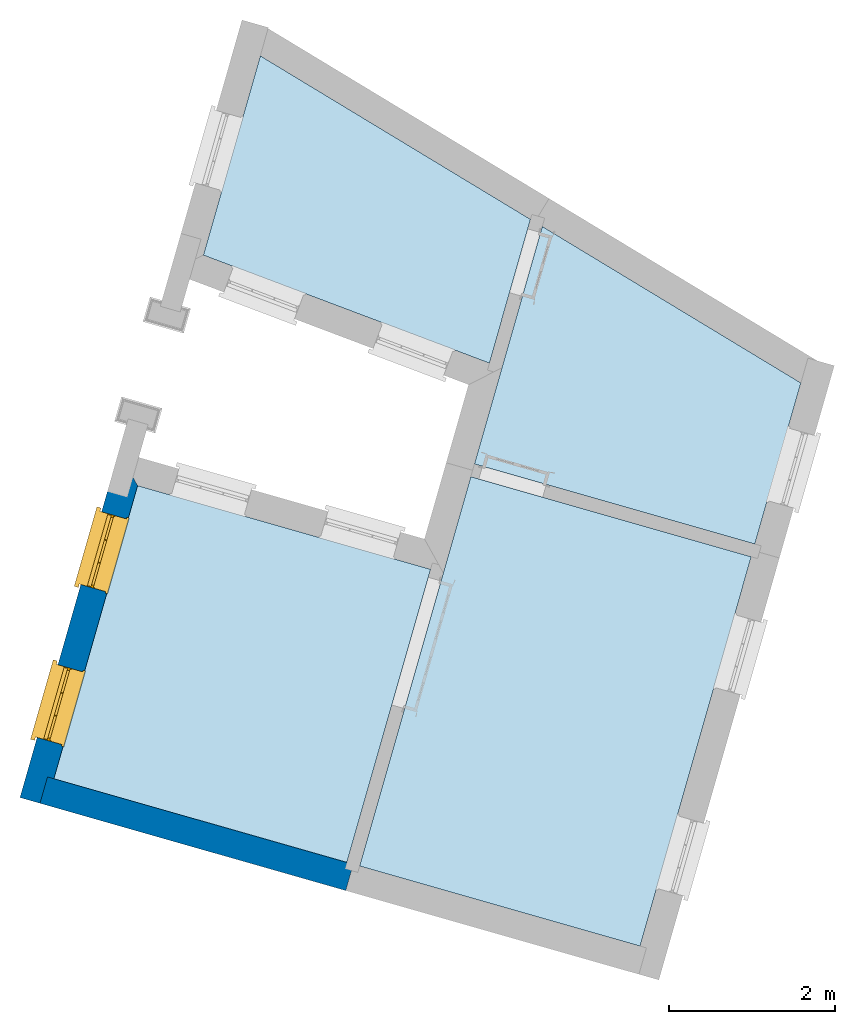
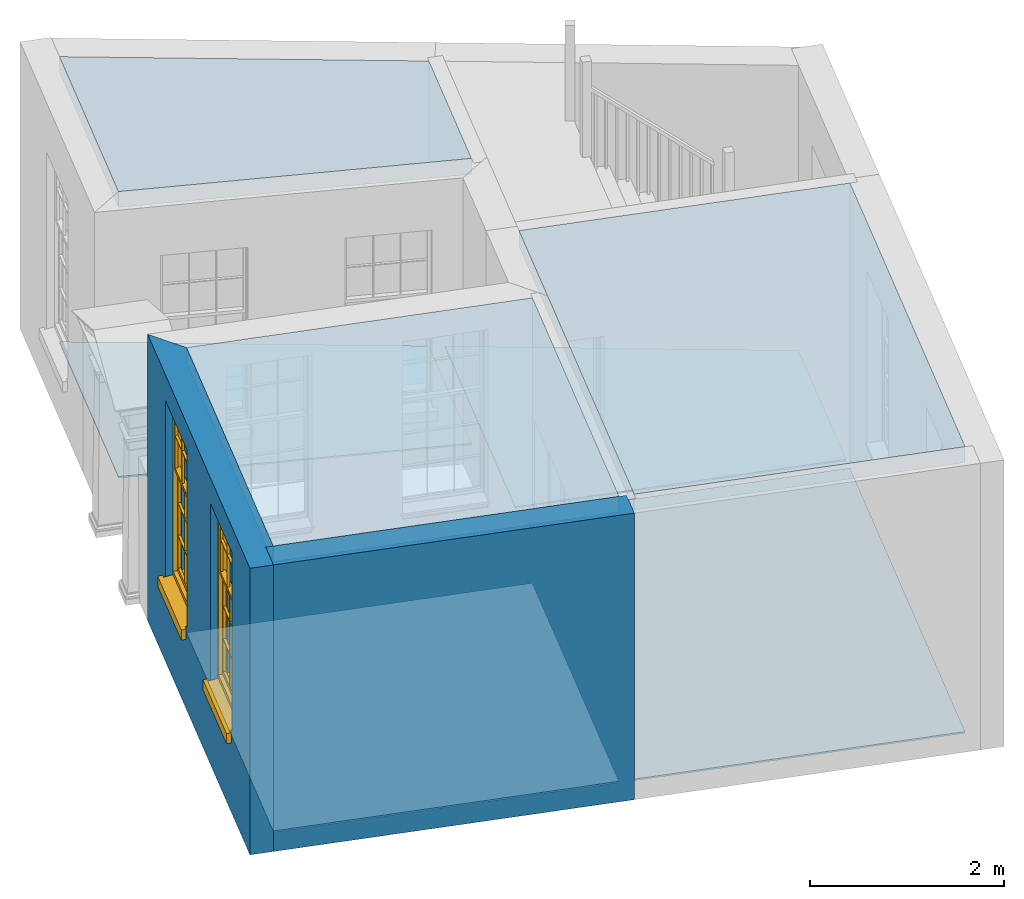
# One storey, part 1 of 6: 7 slabs, 2 walls, 2 windows, 2 openings.
"""IFC4 building model written with IfcOpenShell, lengths in metres."""

from ifc_helpers import new_model, si_unit, frame, origin, origin_with_axes, place, context, subcontext, project, spatial, polyline, outline, extrude, faceted_brep, source, transform, mapped, material, layer, layer_set, layer_usage, type_object, type_shapes, element, fill, save


model = new_model("IFC4")

# Units and contexts
model_context = context("Model", 3, world=origin_with_axes())
body_context = subcontext(model_context, "Body", "Model", "MODEL_VIEW")
ifc_project = project(units=[si_unit("PLANEANGLEUNIT", "RADIAN"), si_unit("MASSUNIT", "GRAM", prefix="KILO"), si_unit("FORCEUNIT", "NEWTON", prefix="KILO"), si_unit("LENGTHUNIT", "METRE"), si_unit("AREAUNIT", "SQUARE_METRE"), si_unit("VOLUMEUNIT", "CUBIC_METRE")], contexts=[model_context, model_context])

# Sites, building, storey
site_1_placement = place(None, origin_with_axes())
site_1 = spatial("IfcSite", under=ifc_project, at=site_1_placement, Name="Tamar")
site_2_placement = place(site_1_placement, origin_with_axes())
site_2 = spatial("IfcSite", under=site_1, at=site_2_placement, Name="Site plot-19", CompositionType="ELEMENT")
building_placement = place(None, origin_with_axes())
building = spatial("IfcBuilding", under=site_2, at=building_placement, Name="Building plot-19", CompositionType="ELEMENT")
storey_placement = place(None, frame((0.0, 0.0, 26.8), z_axis=(0.0, 0.0, 1.0), x_axis=(1.0, 0.0, 0.0)))
storey = spatial("IfcBuildingStorey", under=building, at=storey_placement, Name="plot-19 0", CompositionType="ELEMENT", Elevation=26.8)

# Slabs
slab_1_placement = place(storey_placement, frame((281.302675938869, 302.116570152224, 0.0)))
element("IfcSlab", 1, at=slab_1_placement, inside=storey, Name="My Slab", ObjectType="Slab", PredefinedType="FLOOR", context=body_context, shape_type="SweptSolid", body=[
    extrude(outline(polyline([(0.0, 0.0), (-0.816473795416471, -2.85938080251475), (2.55983002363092, -3.82345791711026), (3.11362460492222, -1.88400853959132), (0.0, 0.0)])), origin_with_axes(), (0.0, 0.0, 1.0), 0.02),
])
slab_2_placement = place(storey_placement, frame((277.222280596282, 301.771207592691, 3.4)))
element("IfcSlab", 2, at=slab_2_placement, inside=storey, Name="My Slab", ObjectType="Slab", PredefinedType="FLOOR", context=body_context, shape_type="SweptSolid", body=[
    extrude(outline(polyline([(0.0, 0.0), (3.44402038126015, -1.30055900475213), (3.93851423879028, 0.431212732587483), (0.685224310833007, 2.39973070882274), (0.0, 0.0)])), origin_with_axes(), (0.0, 0.0, 1.0), 0.2),
])
slab_3_placement = place(storey_placement, frame((277.222280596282, 301.771207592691, 0.0)))
element("IfcSlab", 3, at=slab_3_placement, inside=storey, Name="My Slab", ObjectType="Slab", PredefinedType="FLOOR", context=body_context, shape_type="SweptSolid", body=[
    extrude(outline(polyline([(0.0, 0.0), (3.44402038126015, -1.30055900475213), (3.93851423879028, 0.431212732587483), (0.685224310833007, 2.39973070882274), (0.0, 0.0)])), origin_with_axes(), (0.0, 0.0, 1.0), 0.02),
])
slab_4_placement = place(storey_placement, frame((280.442271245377, 299.103338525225, 3.4)))
element("IfcSlab", 4, at=slab_4_placement, inside=storey, Name="My Slab", ObjectType="Slab", PredefinedType="FLOOR", context=body_context, shape_type="SweptSolid", body=[
    extrude(outline(polyline([(0.0, 0.0), (-1.33848676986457, -4.68752750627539), (2.03781704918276, -5.65160462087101), (3.37630381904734, -0.964077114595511), (0.0, 0.0)])), origin_with_axes(), (0.0, 0.0, 1.0), 0.2),
])
slab_5_placement = place(storey_placement, frame((280.442271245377, 299.103338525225, 0.0)))
element("IfcSlab", 5, at=slab_5_placement, inside=storey, Name="My Slab", ObjectType="Slab", PredefinedType="FLOOR", context=body_context, shape_type="SweptSolid", body=[
    extrude(outline(polyline([(0.0, 0.0), (-1.33848676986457, -4.68752750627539), (2.03781704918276, -5.65160462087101), (3.37630381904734, -0.964077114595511), (0.0, 0.0)])), origin_with_axes(), (0.0, 0.0, 1.0), 0.02),
])
slab_6_placement = place(storey_placement, frame((276.429941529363, 298.996349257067, 3.4)))
element("IfcSlab", 6, at=slab_6_placement, inside=storey, Name="My Slab", ObjectType="Slab", PredefinedType="FLOOR", context=body_context, shape_type="SweptSolid", body=[
    extrude(outline(polyline([(0.0, 0.0), (-1.00775980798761, -3.52928540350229), (2.51999212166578, -4.53660734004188), (3.52775192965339, -1.00732193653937), (0.0, 0.0)])), origin_with_axes(), (0.0, 0.0, 1.0), 0.2),
])
slab_7_placement = place(storey_placement, frame((276.429941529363, 298.996349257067, 0.0)))
element("IfcSlab", 7, at=slab_7_placement, inside=storey, Name="My Slab", ObjectType="Slab", PredefinedType="FLOOR", context=body_context, shape_type="SweptSolid", body=[
    extrude(outline(polyline([(0.0, 0.0), (-1.00775980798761, -3.52928540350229), (2.51999212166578, -4.53660734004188), (3.52775192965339, -1.00732193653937), (0.0, 0.0)])), origin_with_axes(), (0.0, 0.0, 1.0), 0.02),
])

# Wall, openings, windows
ifc_material_1 = material(Name="Masonry")
ifc_layer_1 = layer(ifc_material_1, 0.33, ventilated=False)
ifc_layer_set_1 = layer_set([ifc_layer_1], Name="exterior_0.08_0.25")
ifc_layer_usage_1 = layer_usage(ifc_layer_set_1, "AXIS2", "POSITIVE", -0.25)
wall_type_1 = type_object("IfcWallType", Name="exterior_0.08_0.25", PredefinedType="SOLIDWALL", material=ifc_layer_set_1)
wall_1_placement = place(storey_placement, frame((276.374981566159, 299.095240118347, 0.0), z_axis=(0.0, 0.0, 1.0), x_axis=(-0.274568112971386, -0.961567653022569, 0.0)))
wall_1 = element("IfcWall", 8, at=wall_1_placement, inside=storey, type_object=wall_type_1, material=ifc_layer_usage_1, Name="exterior", context=body_context, shape_type="SweptSolid", body=[
    extrude(outline(polyline([(0.0800000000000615, 0.0800000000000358), (-0.250000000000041, -0.249999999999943), (4.08034539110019, -0.249999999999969), (4.08034539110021, 0.0800000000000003), (0.0800000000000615, 0.0800000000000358)])), origin_with_axes(), (0.0, 0.0, 1.0), 3.6),
])
opening_1_placement = place(wall_1_placement, frame((0.502586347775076, 0.0, 1.05)))
opening_1 = element("IfcOpeningElement", 9, at=opening_1_placement, cuts=wall_1, Name="My Opening", ObjectType="Opening", context=body_context, shape_type="SweptSolid", body=[
    extrude(outline(polyline([(0.0, -0.270000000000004), (0.910000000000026, -0.270000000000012), (0.910000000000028, 1.10000000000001), (2.22044604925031e-15, 1.10000000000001), (0.0, -0.270000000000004)])), origin_with_axes(), (0.0, 0.0, 1.0), 2.23),
])
opening_2_placement = place(wall_1_placement, frame((2.41775904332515, 0.0, 1.05)))
opening_2 = element("IfcOpeningElement", 10, at=opening_2_placement, cuts=wall_1, Name="My Opening", ObjectType="Opening", context=body_context, shape_type="SweptSolid", body=[
    extrude(outline(polyline([(0.0, -0.27000000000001), (0.910000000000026, -0.270000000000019), (0.910000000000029, 1.1), (1.77635683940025e-15, 1.10000000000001), (0.0, -0.27000000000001)])), origin_with_axes(), (0.0, 0.0, 1.0), 2.23),
])
window_type = type_object("IfcWindowType", Name="sash_big_taller", PartitioningType="DOUBLE_PANEL_HORIZONTAL", PredefinedType="NOTDEFINED")
shared_shape = source(origin(), body_context, "Body", "Brep", [
    faceted_brep([(0.033125, 0.145, 1.385209), (0.01, 0.145, 1.385209), (0.033125, 0.145, 1.786042), (0.876875, 0.145, 1.385209), (0.876875, 0.145, 1.786042), (0.9, 0.145, 1.385209), (0.876875, 0.145, 1.796042), (0.876875, 0.145, 2.196875), (0.9, 0.145, 2.22), (0.033125, 0.145, 2.196875), (0.033125, 0.145, 1.796042), (0.01, 0.145, 2.22), (0.876875, 0.115, 1.786042), (0.876875, 0.115, 1.385209), (0.9, 0.115, 1.347084), (0.033125, 0.115, 2.196875), (0.01, 0.115, 2.22), (0.033125, 0.115, 1.796042), (0.01, 0.115, 1.347084), (0.033125, 0.115, 1.385209), (0.033125, 0.115, 1.786042), (0.876875, 0.115, 2.196875), (0.876875, 0.115, 1.796042), (0.9, 0.115, 2.22), (0.033125, 0.145, 1.347084), (0.01, 0.145, 1.347084), (0.033125, 0.145, 0.94625), (0.876875, 0.145, 1.347084), (0.876875, 0.145, 0.94625), (0.9, 0.145, 1.347084), (0.876875, 0.145, 0.52625), (0.876875, 0.145, 0.125417), (0.9, 0.145, 0.077167), (0.033125, 0.145, 0.125417), (0.033125, 0.145, 0.52625), (0.01, 0.145, 0.077167), (-0.0425, 0.0, 0.01), (-0.0425, -0.05, 0.001667), (0.0, 0.0, 0.01), (0.9525, 0.0, 0.01), (0.91, 0.0, 0.01), (0.9525, -0.05, 0.001667), (-0.02, 0.33, 0.077167), (0.0, 0.33, 0.077167), (-0.02, 0.36, 0.077167), (0.0, 0.19, 0.077167), (0.01, 0.19, 0.077167), (0.91, 0.19, 0.077167), (0.91, 0.33, 0.077167), (0.9, 0.19, 0.077167), (0.93, 0.33, 0.077167), (0.93, 0.36, 0.077167), (0.01, 0.175, 1.385209), (0.9, 0.175, 1.385209), (0.876875, 0.175, 0.125417), (0.876875, 0.175, 0.52625), (0.9, 0.175, 0.077167), (0.876875, 0.175, 0.94625), (0.876875, 0.175, 1.347084), (0.033125, 0.175, 0.125417), (0.01, 0.175, 0.077167), (0.033125, 0.175, 0.52625), (0.033125, 0.175, 1.347084), (0.033125, 0.175, 0.94625), (-0.02, 0.33, 0.052167), (-0.02, 0.36, 0.052167), (0.93, 0.36, 0.052167), (0.93, 0.33, 0.052167), (0.91, 0.33, 0.052167), (0.0, 0.33, 0.052167), (0.91, 0.1, 0.026667), (0.0, 0.1, 0.026667), (-0.0425, -0.05, -0.123333), (0.9525, -0.05, -0.123333), (-0.0425, 0.0, -0.123333), (0.9525, 0.0, -0.123333), (0.01, 0.19, 2.22), (0.9, 0.19, 2.22), (0.0, 0.19, 2.23), (0.91, 0.19, 2.23), (0.01, 0.1, 0.077167), (0.9, 0.1, 0.077167), (0.592292, 0.145, 0.125417), (0.592292, 0.175, 0.125417), (0.317708, 0.175, 0.125417), (0.317708, 0.145, 0.125417), (0.592292, 0.145, 0.53625), (0.317708, 0.145, 0.53625), (0.317708, 0.145, 0.52625), (0.592292, 0.145, 0.52625), (0.592292, 0.175, 0.53625), (0.317708, 0.175, 0.53625), (0.592292, 0.115, 1.796042), (0.592292, 0.145, 1.796042), (0.317708, 0.145, 1.796042), (0.317708, 0.115, 1.796042), (0.317708, 0.115, 1.786042), (0.592292, 0.115, 1.786042), (0.317708, 0.145, 1.786042), (0.592292, 0.145, 1.786042), (0.602292, 0.115, 1.786042), (0.592292, 0.115, 1.385209), (0.602292, 0.115, 1.385209), (0.602292, 0.145, 1.385209), (0.592292, 0.145, 1.385209), (0.602292, 0.145, 1.786042), (0.876875, 0.145, 0.53625), (0.876875, 0.175, 0.53625), (0.602292, 0.175, 0.53625), (0.602292, 0.145, 0.53625), (0.317708, 0.175, 0.52625), (0.307708, 0.175, 0.125417), (0.307708, 0.175, 0.52625), (0.602292, 0.175, 0.52625), (0.602292, 0.175, 0.125417), (0.592292, 0.175, 0.52625), (0.307708, 0.175, 0.53625), (0.033125, 0.175, 0.53625), (0.317708, 0.175, 1.347084), (0.317708, 0.175, 0.94625), (0.307708, 0.175, 0.94625), (0.307708, 0.175, 1.347084), (0.602292, 0.175, 1.347084), (0.602292, 0.175, 0.94625), (0.592292, 0.175, 0.94625), (0.592292, 0.175, 1.347084), (0.307708, 0.145, 0.52625), (0.307708, 0.145, 0.125417), (0.307708, 0.145, 0.53625), (0.033125, 0.145, 0.53625), (0.307708, 0.145, 1.347084), (0.307708, 0.145, 0.94625), (0.592292, 0.145, 1.347084), (0.592292, 0.145, 0.94625), (0.317708, 0.145, 0.94625), (0.317708, 0.145, 1.347084), (0.602292, 0.145, 0.94625), (0.602292, 0.145, 1.347084), (0.602292, 0.145, 0.52625), (0.602292, 0.145, 0.125417), (0.307708, 0.115, 1.796042), (0.307708, 0.115, 1.786042), (0.307708, 0.115, 1.385209), (0.317708, 0.115, 1.385209), (0.317708, 0.115, 2.196875), (0.307708, 0.115, 2.196875), (0.602292, 0.115, 2.196875), (0.592292, 0.115, 2.196875), (0.602292, 0.115, 1.796042), (0.602292, 0.145, 1.796042), (0.307708, 0.145, 1.796042), (0.307708, 0.145, 2.196875), (0.317708, 0.145, 2.196875), (0.592292, 0.145, 2.196875), (0.602292, 0.145, 2.196875), (0.307708, 0.145, 1.786042), (0.317708, 0.145, 1.385209), (0.307708, 0.145, 1.385209), (0.876875, 0.175, 0.93625), (0.033125, 0.175, 0.93625), (0.033125, 0.145, 0.93625), (0.876875, 0.145, 0.93625), (0.91, 0.1, 2.23), (0.9, 0.1, 2.22), (0.01, 0.1, 2.22), (0.0, 0.1, 2.23), (0.91, 0.0, 0.0), (0.0, 0.0, 0.0), (0.91, 0.33, 0.0), (0.0, 0.33, 0.0), (0.317708, 0.145, 0.93625), (0.592292, 0.145, 0.93625), (0.317708, 0.175, 0.93625), (0.307708, 0.175, 0.93625), (0.602292, 0.175, 0.93625), (0.592292, 0.175, 0.93625), (0.307708, 0.145, 0.93625), (0.602292, 0.145, 0.93625)], [[[0, 1, 2]], [[3, 4, 5]], [[6, 7, 8]], [[9, 10, 11]], [[12, 13, 14]], [[15, 16, 17]], [[18, 19, 20]], [[21, 22, 23]], [[24, 25, 26]], [[27, 28, 29]], [[30, 31, 32]], [[33, 34, 35]], [[14, 27, 29]], [[25, 24, 18]], [[36, 37, 38]], [[39, 40, 41]], [[42, 43, 44]], [[45, 46, 43]], [[47, 48, 49]], [[50, 51, 48]], [[1, 0, 52]], [[5, 53, 3]], [[54, 55, 56]], [[57, 58, 53]], [[59, 60, 61]], [[62, 63, 52]], [[48, 43, 46, 49]], [[51, 44, 43, 48]], [[64, 42, 44, 65]], [[65, 44, 51, 66]], [[66, 51, 50, 67]], [[65, 66, 68, 69]], [[60, 56, 49, 46]], [[70, 71, 38, 40]], [[37, 41, 40, 38]], [[37, 72, 73, 41]], [[74, 75, 73, 72]], [[8, 11, 76, 77]], [[76, 78, 79, 77]], [[32, 35, 80, 81]], [[81, 80, 71, 70]], [[82, 83, 84, 85]], [[86, 87, 88, 89]], [[86, 90, 91, 87]], [[92, 93, 94, 95]], [[92, 95, 96, 97]], [[96, 98, 99, 97]], [[100, 97, 101, 102]], [[103, 104, 99, 105]], [[97, 99, 104, 101]], [[102, 103, 105, 100]], [[106, 107, 108, 109]], [[110, 84, 111, 112]], [[113, 114, 83, 115]], [[116, 112, 61, 117]], [[90, 115, 110, 91]], [[118, 119, 120, 121]], [[122, 123, 124, 125]], [[113, 108, 107, 55]], [[126, 112, 111, 127]], [[34, 61, 112, 126]], [[89, 115, 83, 82]], [[88, 110, 115, 89]], [[85, 84, 110, 88]], [[128, 116, 117, 129]], [[130, 121, 120, 131]], [[132, 125, 124, 133]], [[134, 119, 118, 135]], [[136, 123, 122, 137]], [[138, 113, 55, 30]], [[139, 114, 113, 138]], [[138, 30, 106, 109]], [[88, 126, 127, 85]], [[138, 89, 82, 139]], [[137, 132, 133, 136]], [[128, 129, 34, 126]], [[135, 130, 131, 134]], [[140, 17, 20, 141]], [[96, 141, 142, 143]], [[144, 145, 140, 95]], [[146, 147, 92, 148]], [[100, 12, 22, 148]], [[149, 6, 4, 105]], [[94, 150, 151, 152]], [[149, 93, 153, 154]], [[99, 98, 94, 93]], [[155, 2, 10, 150]], [[156, 157, 155, 98]], [[141, 155, 157, 142]], [[20, 2, 155, 141]], [[143, 156, 98, 96]], [[140, 150, 10, 17]], [[145, 151, 150, 140]], [[147, 153, 93, 92]], [[95, 94, 152, 144]], [[22, 6, 149, 148]], [[148, 149, 154, 146]], [[100, 105, 4, 12]], [[109, 86, 89, 138]], [[108, 113, 115, 90]], [[91, 110, 112, 116]], [[87, 128, 126, 88]], [[97, 100, 148, 92]], [[141, 96, 95, 140]], [[98, 155, 150, 94]], [[105, 99, 93, 149]], [[143, 101, 104, 156]], [[135, 118, 125, 132]], [[144, 152, 153, 147]], [[127, 111, 59, 33]], [[15, 9, 151, 145]], [[146, 154, 7, 21]], [[31, 54, 114, 139]], [[36, 74, 72, 37]], [[39, 41, 73, 75]], [[18, 14, 101, 143]], [[23, 16, 144, 147]], [[83, 56, 60, 84]], [[52, 53, 125, 118]], [[53, 52, 156, 104]], [[11, 8, 153, 152]], [[14, 18, 135, 132]], [[2, 1, 11, 10]], [[8, 5, 4, 6]], [[57, 53, 56, 158]], [[60, 52, 63, 159]], [[26, 25, 35, 160]], [[32, 29, 28, 161]], [[14, 23, 22, 12]], [[18, 20, 17, 16]], [[19, 0, 2, 20]], [[17, 10, 9, 15]], [[12, 4, 3, 13]], [[21, 7, 6, 22]], [[27, 58, 57, 28]], [[30, 55, 54, 31]], [[33, 59, 61, 34]], [[26, 63, 62, 24]], [[5, 8, 77, 53]], [[76, 11, 1, 52]], [[46, 45, 78, 76]], [[49, 77, 79, 47]], [[70, 162, 163, 81]], [[71, 80, 164, 165]], [[19, 142, 157, 0]], [[102, 13, 3, 103]], [[121, 130, 24, 62]], [[29, 32, 81, 14]], [[80, 35, 25, 18]], [[60, 46, 76, 52]], [[77, 49, 56, 53]], [[23, 14, 81, 163]], [[16, 164, 80, 18]], [[35, 85, 127]], [[127, 33, 35]], [[139, 82, 32]], [[32, 31, 139]], [[32, 82, 85, 35]], [[102, 101, 14]], [[14, 13, 102]], [[18, 143, 142]], [[142, 19, 18]], [[146, 21, 23]], [[23, 147, 146]], [[16, 15, 145]], [[145, 144, 16]], [[11, 152, 151]], [[151, 9, 11]], [[154, 153, 8]], [[8, 7, 154]], [[23, 163, 164, 16]], [[162, 165, 164, 163]], [[52, 118, 121]], [[121, 62, 52]], [[125, 53, 122]], [[58, 122, 53]], [[27, 137, 122, 58]], [[56, 83, 114]], [[114, 54, 56]], [[111, 84, 60]], [[60, 59, 111]], [[137, 27, 14]], [[14, 132, 137]], [[130, 135, 18]], [[18, 24, 130]], [[157, 156, 52]], [[52, 0, 157]], [[103, 3, 53]], [[53, 104, 103]], [[79, 78, 165, 162]], [[78, 45, 71, 165]], [[162, 70, 47, 79]], [[166, 75, 74, 167]], [[68, 66, 67]], [[48, 68, 67, 50]], [[69, 64, 65]], [[42, 64, 69, 43]], [[69, 68, 168, 169]], [[70, 68, 48, 47]], [[166, 168, 68, 70]], [[43, 69, 71, 45]], [[69, 169, 167, 71]], [[168, 166, 167, 169]], [[38, 167, 74, 36]], [[71, 167, 38]], [[39, 75, 166, 40]], [[40, 166, 70]], [[133, 134, 170, 171]], [[133, 124, 119, 134]], [[28, 57, 123, 136]], [[172, 91, 116, 173]], [[174, 108, 90, 175]], [[120, 173, 159, 63]], [[124, 175, 172, 119]], [[174, 123, 57, 158]], [[176, 173, 116, 128]], [[160, 159, 173, 176]], [[171, 175, 90, 86]], [[170, 172, 175, 171]], [[87, 91, 172, 170]], [[131, 120, 63, 26]], [[177, 174, 158, 161]], [[109, 108, 174, 177]], [[177, 161, 28, 136]], [[170, 176, 128, 87]], [[177, 171, 86, 109]], [[131, 26, 160, 176]], [[136, 133, 171, 177]], [[123, 174, 175, 124]], [[119, 172, 173, 120]], [[134, 131, 176, 170]], [[129, 117, 159, 160]], [[161, 158, 107, 106]], [[35, 34, 129]], [[35, 129, 160]], [[32, 106, 30]], [[32, 161, 106]], [[56, 55, 107]], [[56, 107, 158]], [[60, 117, 61]], [[60, 159, 117]]]),
])
type_shapes(window_type, [shared_shape])
window_1_placement = place(storey_placement, frame((275.977364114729, 298.686102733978, 1.05), z_axis=(0.0, 0.0, 1.0), x_axis=(-0.249856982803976, -0.875026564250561, 0.0)))
window_1 = element("IfcWindow", 11, at=window_1_placement, inside=storey, type_object=window_type, Name="kitchen street window", OverallHeight=2.23, OverallWidth=0.91, context=body_context, shape_type="MappedRepresentation", body=[
    mapped(shared_shape, transform((0.0, 0.0, 0.0), scale=1.0)),
])
fill(opening_1, window_1)
window_2_placement = place(storey_placement, frame((275.451518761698, 296.844534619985, 1.05), z_axis=(0.0, 0.0, 1.0), x_axis=(-0.249856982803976, -0.875026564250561, 0.0)))
window_2 = element("IfcWindow", 12, at=window_2_placement, inside=storey, type_object=window_type, Name="kitchen street window", OverallHeight=2.23, OverallWidth=0.91, context=body_context, shape_type="MappedRepresentation", body=[
    mapped(shared_shape, transform((0.0, 0.0, 0.0), scale=1.0)),
])
fill(opening_2, window_2)

# Wall
ifc_material_2 = material(Name="Masonry")
ifc_layer_2 = layer(ifc_material_2, 0.33, ventilated=False)
ifc_layer_set_2 = layer_set([ifc_layer_2], Name="party_0.08_0.25")
ifc_layer_usage_2 = layer_usage(ifc_layer_set_2, "AXIS2", "POSITIVE", -0.25)
wall_type_2 = type_object("IfcWallType", Name="party_0.08_0.25", PredefinedType="SOLIDWALL", material=ifc_layer_set_2)
wall_2_placement = place(storey_placement, frame((275.323290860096, 295.412103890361, 0.0), z_axis=(0.0, 0.0, 1.0), x_axis=(0.961567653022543, -0.274568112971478, 0.0)))
element("IfcWall", 13, at=wall_2_placement, inside=storey, type_object=wall_type_2, material=ifc_layer_usage_2, Name="party", context=body_context, shape_type="SweptSolid", body=[
    extrude(outline(polyline([(2.0823800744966e-14, 0.079999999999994), (-2.51369646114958e-14, -0.249999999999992), (3.828750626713, -0.249999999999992), (3.82875062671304, 0.0799999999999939), (2.0823800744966e-14, 0.079999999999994)])), origin_with_axes(), (0.0, 0.0, 1.0), 3.6),
])

save(model, "model.ifc")
